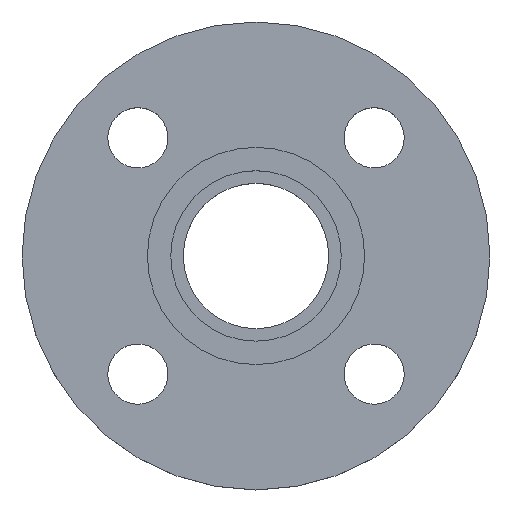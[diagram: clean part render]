
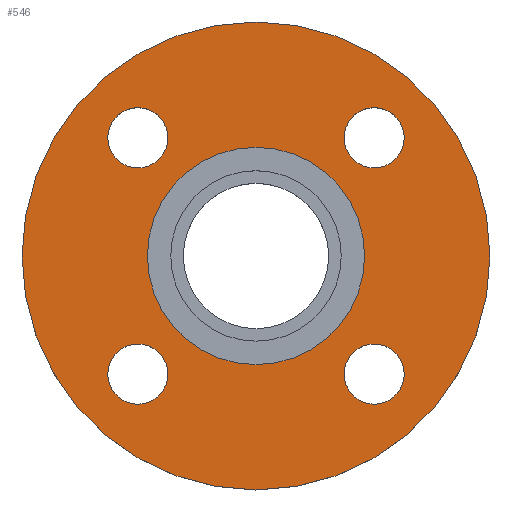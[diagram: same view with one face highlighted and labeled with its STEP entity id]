
A CAD part, top view. The second image highlights one B-rep face of the part: STEP entity #546.
In plain terms, the highlighted planar face has unit normal (0, 0, 1).
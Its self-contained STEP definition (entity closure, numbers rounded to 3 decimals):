
#1 = CIRCLE ( 'NONE', #27, 9. ) ;
#2 = EDGE_LOOP ( 'NONE', ( #720, #438 ) ) ;
#7 = VERTEX_POINT ( 'NONE', #328 ) ;
#17 = AXIS2_PLACEMENT_3D ( 'NONE', #334, #587, #18 ) ;
#18 = DIRECTION ( 'NONE',  ( 1., 0., 0. ) ) ;
#27 = AXIS2_PLACEMENT_3D ( 'NONE', #128, #375, #629 ) ;
#42 = EDGE_CURVE ( 'NONE', #259, #121, #255, .T. ) ;
#43 = VERTEX_POINT ( 'NONE', #586 ) ;
#45 = DIRECTION ( 'NONE',  ( 0., 0., -1. ) ) ;
#51 = AXIS2_PLACEMENT_3D ( 'NONE', #793, #246, #494 ) ;
#53 = FACE_BOUND ( 'NONE', #154, .T. ) ;
#57 = CIRCLE ( 'NONE', #517, 9. ) ;
#68 = DIRECTION ( 'NONE',  ( 0., 0., 1. ) ) ;
#72 = EDGE_CURVE ( 'NONE', #7, #780, #714, .T. ) ;
#85 = DIRECTION ( 'NONE',  ( 0., 0., -1. ) ) ;
#87 = EDGE_CURVE ( 'NONE', #568, #755, #576, .T. ) ;
#109 = CARTESIAN_POINT ( 'NONE',  ( -32.5, 0., -4.5 ) ) ;
#110 = EDGE_CURVE ( 'NONE', #780, #7, #163, .T. ) ;
#112 = EDGE_CURVE ( 'NONE', #121, #259, #1, .T. ) ;
#114 = DIRECTION ( 'NONE',  ( 0., 0., -1. ) ) ;
#119 = FACE_BOUND ( 'NONE', #797, .T. ) ;
#120 = AXIS2_PLACEMENT_3D ( 'NONE', #186, #432, #685 ) ;
#121 = VERTEX_POINT ( 'NONE', #799 ) ;
#127 = ORIENTED_EDGE ( 'NONE', *, *, #110, .F. ) ;
#128 = CARTESIAN_POINT ( 'NONE',  ( 35.355, -35.355, -4.5 ) ) ;
#140 = AXIS2_PLACEMENT_3D ( 'NONE', #674, #114, #364 ) ;
#154 = EDGE_LOOP ( 'NONE', ( #564, #457 ) ) ;
#157 = CARTESIAN_POINT ( 'NONE',  ( 0., 0., -4.5 ) ) ;
#163 = CIRCLE ( 'NONE', #120, 70. ) ;
#165 = DIRECTION ( 'NONE',  ( 0., 0., -1. ) ) ;
#169 = DIRECTION ( 'NONE',  ( 0., 0., -1. ) ) ;
#172 = CARTESIAN_POINT ( 'NONE',  ( 44.355, 35.355, -4.5 ) ) ;
#175 = EDGE_CURVE ( 'NONE', #789, #43, #569, .T. ) ;
#186 = CARTESIAN_POINT ( 'NONE',  ( 0., 0., -4.5 ) ) ;
#201 = CARTESIAN_POINT ( 'NONE',  ( -35.355, -35.355, -4.5 ) ) ;
#203 = CARTESIAN_POINT ( 'NONE',  ( -35.355, 35.355, -4.5 ) ) ;
#222 = AXIS2_PLACEMENT_3D ( 'NONE', #203, #449, #698 ) ;
#233 = CARTESIAN_POINT ( 'NONE',  ( -26.355, -35.355, -4.5 ) ) ;
#244 = ORIENTED_EDGE ( 'NONE', *, *, #72, .F. ) ;
#246 = DIRECTION ( 'NONE',  ( 0., 0., -1. ) ) ;
#255 = CIRCLE ( 'NONE', #358, 9. ) ;
#259 = VERTEX_POINT ( 'NONE', #656 ) ;
#260 = EDGE_LOOP ( 'NONE', ( #244, #127 ) ) ;
#284 = ORIENTED_EDGE ( 'NONE', *, *, #407, .T. ) ;
#292 = EDGE_CURVE ( 'NONE', #43, #789, #669, .T. ) ;
#299 = DIRECTION ( 'NONE',  ( -1., 0., 0. ) ) ;
#306 = FACE_OUTER_BOUND ( 'NONE', #260, .T. ) ;
#313 = VERTEX_POINT ( 'NONE', #233 ) ;
#318 = ORIENTED_EDGE ( 'NONE', *, *, #292, .T. ) ;
#319 = CIRCLE ( 'NONE', #769, 32.5 ) ;
#320 = DIRECTION ( 'NONE',  ( 1., 0., 0. ) ) ;
#325 = ORIENTED_EDGE ( 'NONE', *, *, #574, .T. ) ;
#328 = CARTESIAN_POINT ( 'NONE',  ( 70., 0., -4.5 ) ) ;
#329 = EDGE_CURVE ( 'NONE', #733, #501, #370, .T. ) ;
#333 = DIRECTION ( 'NONE',  ( 1., 0., 0. ) ) ;
#334 = CARTESIAN_POINT ( 'NONE',  ( 35.355, 35.355, -4.5 ) ) ;
#355 = AXIS2_PLACEMENT_3D ( 'NONE', #786, #68, #320 ) ;
#358 = AXIS2_PLACEMENT_3D ( 'NONE', #644, #85, #333 ) ;
#360 = CARTESIAN_POINT ( 'NONE',  ( -70., 0., -4.5 ) ) ;
#364 = DIRECTION ( 'NONE',  ( 1., 0., 0. ) ) ;
#366 = FACE_BOUND ( 'NONE', #634, .T. ) ;
#370 = CIRCLE ( 'NONE', #17, 9. ) ;
#375 = DIRECTION ( 'NONE',  ( 0., 0., -1. ) ) ;
#401 = AXIS2_PLACEMENT_3D ( 'NONE', #716, #165, #411 ) ;
#404 = DIRECTION ( 'NONE',  ( 0., 0., -1. ) ) ;
#407 = EDGE_CURVE ( 'NONE', #605, #313, #736, .T. ) ;
#411 = DIRECTION ( 'NONE',  ( 1., 0., 0. ) ) ;
#414 = DIRECTION ( 'NONE',  ( 1., 0., 0. ) ) ;
#423 = CARTESIAN_POINT ( 'NONE',  ( 26.355, 35.355, -4.5 ) ) ;
#432 = DIRECTION ( 'NONE',  ( 0., 0., -1. ) ) ;
#438 = ORIENTED_EDGE ( 'NONE', *, *, #112, .T. ) ;
#448 = DIRECTION ( 'NONE',  ( 0., 0., -1. ) ) ;
#449 = DIRECTION ( 'NONE',  ( 0., 0., -1. ) ) ;
#451 = EDGE_CURVE ( 'NONE', #755, #568, #319, .T. ) ;
#457 = ORIENTED_EDGE ( 'NONE', *, *, #87, .T. ) ;
#489 = CIRCLE ( 'NONE', #140, 9. ) ;
#494 = DIRECTION ( 'NONE',  ( -1., 0., 0. ) ) ;
#501 = VERTEX_POINT ( 'NONE', #423 ) ;
#504 = EDGE_CURVE ( 'NONE', #501, #733, #489, .T. ) ;
#517 = AXIS2_PLACEMENT_3D ( 'NONE', #201, #448, #697 ) ;
#546 = ADVANCED_FACE ( 'NONE', ( #678, #119, #366, #620, #53, #306 ), #555, .T. ) ;
#555 = PLANE ( 'NONE',  #355 ) ;
#558 = ORIENTED_EDGE ( 'NONE', *, *, #504, .T. ) ;
#564 = ORIENTED_EDGE ( 'NONE', *, *, #451, .T. ) ;
#568 = VERTEX_POINT ( 'NONE', #750 ) ;
#569 = CIRCLE ( 'NONE', #222, 9. ) ;
#574 = EDGE_CURVE ( 'NONE', #313, #605, #57, .T. ) ;
#576 = CIRCLE ( 'NONE', #51, 32.5 ) ;
#586 = CARTESIAN_POINT ( 'NONE',  ( -44.355, 35.355, -4.5 ) ) ;
#587 = DIRECTION ( 'NONE',  ( 0., 0., -1. ) ) ;
#605 = VERTEX_POINT ( 'NONE', #756 ) ;
#613 = CARTESIAN_POINT ( 'NONE',  ( -26.355, 35.355, -4.5 ) ) ;
#614 = CARTESIAN_POINT ( 'NONE',  ( 0., 0., -4.5 ) ) ;
#620 = FACE_BOUND ( 'NONE', #741, .T. ) ;
#629 = DIRECTION ( 'NONE',  ( 1., 0., 0. ) ) ;
#634 = EDGE_LOOP ( 'NONE', ( #794, #318 ) ) ;
#644 = CARTESIAN_POINT ( 'NONE',  ( 35.355, -35.355, -4.5 ) ) ;
#656 = CARTESIAN_POINT ( 'NONE',  ( 44.355, -35.355, -4.5 ) ) ;
#657 = DIRECTION ( 'NONE',  ( -1., 0., 0. ) ) ;
#669 = CIRCLE ( 'NONE', #753, 9. ) ;
#674 = CARTESIAN_POINT ( 'NONE',  ( 35.355, 35.355, -4.5 ) ) ;
#678 = FACE_BOUND ( 'NONE', #2, .T. ) ;
#685 = DIRECTION ( 'NONE',  ( -1., 0., 0. ) ) ;
#697 = DIRECTION ( 'NONE',  ( 1., 0., 0. ) ) ;
#698 = DIRECTION ( 'NONE',  ( 1., 0., 0. ) ) ;
#714 = CIRCLE ( 'NONE', #775, 70. ) ;
#716 = CARTESIAN_POINT ( 'NONE',  ( -35.355, -35.355, -4.5 ) ) ;
#719 = CARTESIAN_POINT ( 'NONE',  ( -35.355, 35.355, -4.5 ) ) ;
#720 = ORIENTED_EDGE ( 'NONE', *, *, #42, .T. ) ;
#733 = VERTEX_POINT ( 'NONE', #172 ) ;
#736 = CIRCLE ( 'NONE', #401, 9. ) ;
#741 = EDGE_LOOP ( 'NONE', ( #765, #558 ) ) ;
#750 = CARTESIAN_POINT ( 'NONE',  ( 32.5, 0., -4.5 ) ) ;
#753 = AXIS2_PLACEMENT_3D ( 'NONE', #719, #169, #414 ) ;
#755 = VERTEX_POINT ( 'NONE', #109 ) ;
#756 = CARTESIAN_POINT ( 'NONE',  ( -44.355, -35.355, -4.5 ) ) ;
#765 = ORIENTED_EDGE ( 'NONE', *, *, #329, .T. ) ;
#769 = AXIS2_PLACEMENT_3D ( 'NONE', #614, #45, #299 ) ;
#775 = AXIS2_PLACEMENT_3D ( 'NONE', #157, #404, #657 ) ;
#780 = VERTEX_POINT ( 'NONE', #360 ) ;
#786 = CARTESIAN_POINT ( 'NONE',  ( 32.5, 0., -4.5 ) ) ;
#789 = VERTEX_POINT ( 'NONE', #613 ) ;
#793 = CARTESIAN_POINT ( 'NONE',  ( 0., 0., -4.5 ) ) ;
#794 = ORIENTED_EDGE ( 'NONE', *, *, #175, .T. ) ;
#797 = EDGE_LOOP ( 'NONE', ( #325, #284 ) ) ;
#799 = CARTESIAN_POINT ( 'NONE',  ( 26.355, -35.355, -4.5 ) ) ;
